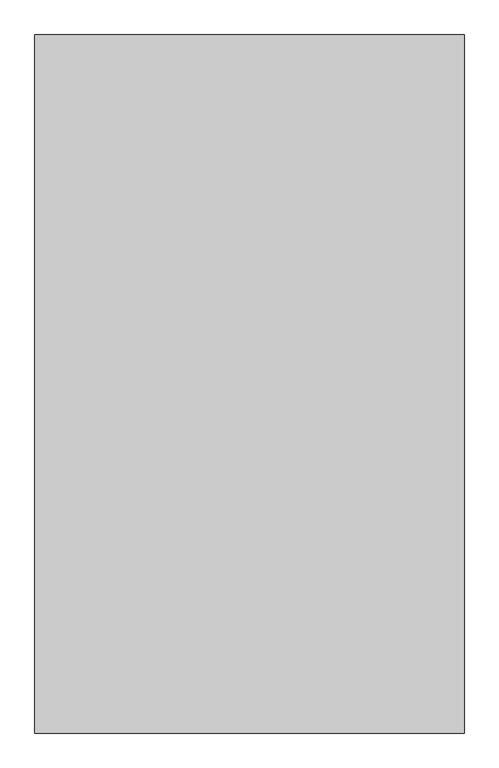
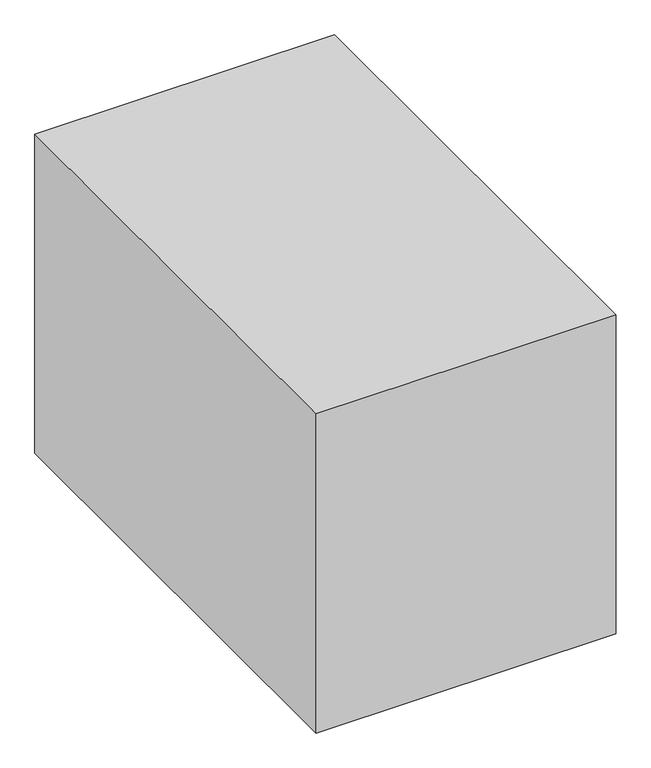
"""IFC4 building model written with IfcOpenShell, lengths in millimetres: proxy geometry, サービススペース(衛生) : サービススペース(衛生)."""

import ifcopenshell
import ifcopenshell.guid

model = None  # the IFC model being written
_history = None  # IfcOwnerHistory: only IFC2X3 demands one
_inside = {}  # id of a spatial element -> (the spatial element, [elements in it])
_under = {}  # id of a project, library or spatial element -> (it, [spatial elements below it])
_declared = {}  # id of a project -> (the project, [libraries it declares])
_typed = {}  # id of a type object -> (the type object, [elements of that type])
_made_of = {}  # id of a material, layer set ... -> (it, [elements and type objects made of it])


def new_model(schema):
    """Start an empty IFC model of exactly this schema.

    Asked for "IFC4X3", IfcOpenShell would pick the latest addendum, in which some entities
    have other attributes; the version numbers below select the first issue.
    IFC2X3 requires an IfcOwnerHistory on every rooted entity: one is made here for all.
    """
    global model, _history
    if schema == "IFC4X3":
        model = ifcopenshell.file(schema_version=(4, 3, 0, 0))
    else:
        model = ifcopenshell.file(schema=schema)
    _inside.clear()
    _under.clear()
    _declared.clear()
    _typed.clear()
    _made_of.clear()
    _history = None
    if model.schema == "IFC2X3":
        org = make("IfcOrganization", Name="unknown")
        user = make(
            "IfcPersonAndOrganization",
            ThePerson=make("IfcPerson", FamilyName="unknown"),
            TheOrganization=org,
        )
        app = make(
            "IfcApplication",
            ApplicationDeveloper=org,
            Version="unknown",
            ApplicationFullName="unknown",
            ApplicationIdentifier="unknown",
        )
        _history = make(
            "IfcOwnerHistory",
            OwningUser=user,
            OwningApplication=app,
            ChangeAction="ADDED",
            CreationDate=0,
        )
    return model


def make(cls, **values):
    """One entity of the class cls with the attributes given. An attribute that is None is left unset."""
    return model.create_entity(
        cls, **{name: value for name, value in values.items() if value is not None}
    )


def rooted(cls, **values):
    """An entity with a GlobalId (a new one), such as an element, a storey or a relation."""
    return make(cls, GlobalId=ifcopenshell.guid.new(), OwnerHistory=_history, **values)


def si_unit(unit_type, name, prefix=None):
    """IfcSIUnit, for example si_unit("LENGTHUNIT", "METRE", prefix="MILLI")."""
    return make("IfcSIUnit", UnitType=unit_type, Prefix=prefix, Name=name)


def assignment(units):
    """IfcUnitAssignment: the units of a project."""
    return None if units is None else make("IfcUnitAssignment", Units=units)


def point(xyz):
    """IfcCartesianPoint."""
    return None if xyz is None else make("IfcCartesianPoint", Coordinates=xyz)


def direction(xyz):
    """IfcDirection."""
    return None if xyz is None else make("IfcDirection", DirectionRatios=xyz)


def frame(location, z_axis=None, x_axis=None):
    """IfcAxis2Placement3D, a coordinate frame: its origin and axes. An axis left out is left unset."""
    return make(
        "IfcAxis2Placement3D",
        Location=point(location),
        Axis=direction(z_axis),
        RefDirection=direction(x_axis),
    )


def origin():
    """The frame at (0, 0, 0) with its axes left unset."""
    return frame((0.0, 0.0, 0.0))


def place(relative_to, where):
    """IfcLocalPlacement: puts the frame where relative to a parent placement (None: the world)."""
    return make(
        "IfcLocalPlacement", PlacementRelTo=relative_to, RelativePlacement=where
    )


def context(
    kind, dimensions, precision=None, world=None, true_north=None, identifier=None
):
    """IfcGeometricRepresentationContext, for example the 3D "Model" context."""
    return make(
        "IfcGeometricRepresentationContext",
        ContextIdentifier=identifier,
        ContextType=kind,
        CoordinateSpaceDimension=dimensions,
        Precision=precision,
        WorldCoordinateSystem=world,
        TrueNorth=true_north,
    )


def project(units=None, contexts=None):
    """IfcProject with its units and contexts."""
    return rooted(
        "IfcProject",
        Name="project",
        RepresentationContexts=contexts,
        UnitsInContext=assignment(units),
    )


def spatial(cls, under=None, at=None, **own):
    """A site, building, storey or space (cls), placed at a placement, below another one or the project."""
    s = rooted(cls, ObjectPlacement=at, **own)
    if under is not None:
        _under.setdefault(under.id(), (under, []))[1].append(s)
    return s


def polyline(points):
    """IfcPolyline through the points."""
    return make("IfcPolyline", Points=[point(p) for p in points])


def outline(outer, holes=None, kind="AREA"):
    """IfcArbitraryClosedProfileDef: a profile drawn as a closed curve; with holes, ...WithVoids."""
    if holes is None:
        return make("IfcArbitraryClosedProfileDef", ProfileType=kind, OuterCurve=outer)
    return make(
        "IfcArbitraryProfileDefWithVoids",
        ProfileType=kind,
        OuterCurve=outer,
        InnerCurves=holes,
    )


def extrude(swept, where, along, depth):
    """IfcExtrudedAreaSolid: the profile swept, set in the frame where, extruded along a direction by depth."""
    return make(
        "IfcExtrudedAreaSolid",
        SweptArea=swept,
        Position=where,
        ExtrudedDirection=direction(along),
        Depth=depth,
    )


def shape(context_of_items, identifier, shape_type, items):
    """IfcShapeRepresentation: the items that make up one representation, for example the "Body"."""
    return make(
        "IfcShapeRepresentation",
        ContextOfItems=context_of_items,
        RepresentationIdentifier=identifier,
        RepresentationType=shape_type,
        Items=items,
    )


def source(mapping_origin, context_of_items, identifier, shape_type, items):
    """IfcRepresentationMap: a shape defined once, which mapped items show again and again."""
    return make(
        "IfcRepresentationMap",
        MappingOrigin=mapping_origin,
        MappedRepresentation=shape(context_of_items, identifier, shape_type, items),
    )


def transform(
    local_origin,
    x_axis=None,
    y_axis=None,
    z_axis=None,
    scale=None,
    scale2=None,
    scale3=None,
    uniform=True,
):
    """IfcCartesianTransformationOperator3D, or its non-uniform kind. x_axis, y_axis, z_axis: its Axis1, 2, 3."""
    if uniform:
        return make(
            "IfcCartesianTransformationOperator3D",
            Axis1=direction(x_axis),
            Axis2=direction(y_axis),
            LocalOrigin=point(local_origin),
            Scale=scale,
            Axis3=direction(z_axis),
        )
    return make(
        "IfcCartesianTransformationOperator3DnonUniform",
        Axis1=direction(x_axis),
        Axis2=direction(y_axis),
        LocalOrigin=point(local_origin),
        Scale=scale,
        Axis3=direction(z_axis),
        Scale2=scale2,
        Scale3=scale3,
    )


def mapped(mapping_source, mapping_target):
    """IfcMappedItem: shows the shape of a source again, moved by a transform."""
    return make(
        "IfcMappedItem", MappingSource=mapping_source, MappingTarget=mapping_target
    )


def made_of(thing, what):
    """Note that an element or type object is made of a material, layer set ...; save() writes the relation."""
    if what is not None:
        _made_of.setdefault(what.id(), (what, []))[1].append(thing)
    return thing


def element(
    cls,
    number,
    at=None,
    inside=None,
    cuts=None,
    type_object=None,
    material=None,
    context=None,
    identifier="Body",
    shape_type=None,
    held_by="IfcProductDefinitionShape",
    body=None,
    shapes=None,
    **own,
):
    """One element of the class cls, such as IfcWall. Its Tag is "e" and its number.

    at: its placement. inside: the storey or other place that contains it. cuts: it is an
    opening in that element (IfcRelVoidsElement). A single representation is given by context,
    identifier, shape_type and body (its items); several are given by shapes. held_by: the class
    of the entity that holds the representations. save() writes the other relations.
    """
    e = rooted(cls, Tag="e%d" % number, ObjectPlacement=at, **own)
    if body is not None:
        shapes = [shape(context, identifier, shape_type, body)]
    if shapes is not None:
        e.Representation = make(held_by, Representations=shapes)
    if inside is not None:
        _inside.setdefault(inside.id(), (inside, []))[1].append(e)
    if cuts is not None:
        rooted(
            "IfcRelVoidsElement", RelatingBuildingElement=cuts, RelatedOpeningElement=e
        )
    if type_object is not None:
        _typed.setdefault(type_object.id(), (type_object, []))[1].append(e)
    return made_of(e, material)


def aggregate(whole, parts):
    """IfcRelAggregates: a whole, such as a stair, and the parts it consists of."""
    return rooted("IfcRelAggregates", RelatingObject=whole, RelatedObjects=parts)


def save(model, path):
    """Write the relations noted so far, then the file.

    IfcRelAggregates (storeys below a building ...), IfcRelContainedInSpatialStructure (elements
    in a storey), IfcRelDefinesByType, IfcRelAssociatesMaterial and IfcRelDeclares: one each for
    every whole, place, type object, material and project.
    """
    for whole, parts in _under.values():
        aggregate(whole, parts)
    for where, things in _inside.values():
        rooted(
            "IfcRelContainedInSpatialStructure",
            RelatedElements=things,
            RelatingStructure=where,
        )
    for kind, things in _typed.values():
        rooted("IfcRelDefinesByType", RelatedObjects=things, RelatingType=kind)
    for what, things in _made_of.values():
        rooted("IfcRelAssociatesMaterial", RelatedObjects=things, RelatingMaterial=what)
    for by, libraries in _declared.values():
        rooted("IfcRelDeclares", RelatingContext=by, RelatedDefinitions=libraries)
    model.write(path)


def specialty_equipment_88b311e8(model_context):
    return source(origin(), model_context, "Body", "SweptSolid", [
        extrude(outline(polyline([(1600.0, 2600.0), (1600.0, -2600.0), (-1600.0, -2600.0), (-1600.0, 2600.0), (1600.0, 2600.0)])), frame((0.0, 0.0, -1800.0), z_axis=(0.0, 0.0, 1.0), x_axis=(1.0, 0.0, 0.0)), (0.0, 0.0, 1.0), 3600.0),
    ])


if __name__ == "__main__":
    model = new_model("IFC4")
    model_context = context("Model", 3, world=origin())
    ifc_project = project(units=[si_unit("LENGTHUNIT", "METRE", prefix="MILLI")], contexts=[model_context])
    site = spatial("IfcSite", under=ifc_project)
    building = spatial("IfcBuilding", under=site)
    placement = place(None, origin())
    specialty_equipment_shape = specialty_equipment_88b311e8(model_context)
    element("IfcBuildingElementProxy", 1, Name="サービススペース(衛生) : サービススペース(衛生)", ObjectType="サービススペース(衛生) : サービススペース(衛生)", at=placement, inside=building, context=model_context, shape_type="MappedRepresentation", body=[
        mapped(specialty_equipment_shape, transform((0.0, 0.0, 0.0), x_axis=(1.0, 0.0, 0.0), y_axis=(0.0, 1.0, 0.0), z_axis=(0.0, 0.0, 1.0))),
    ])
    save(model, "model.ifc")
